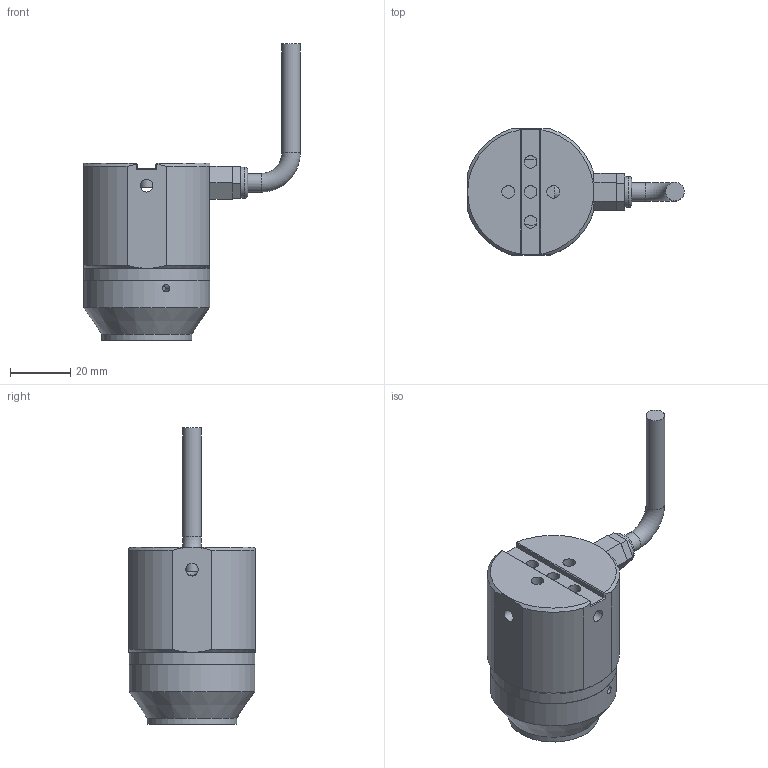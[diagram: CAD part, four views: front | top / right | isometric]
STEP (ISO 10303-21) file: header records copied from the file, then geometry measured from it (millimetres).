
FILE_DESCRIPTION (( 'STEP AP214' ), '1' );
FILE_NAME ('EFFI-LASE-CPT-XXX-ZZZ.STEP', '2021-09-06T16:05:10', ( '' ), ( '' ), 'SwSTEP 2.0', 'SolidWorks 2021', '' );
FILE_SCHEMA (( 'AUTOMOTIVE_DESIGN' ));
Length unit declared in the file: millimetre
Products named in the file (1): EFFI-LASE-CPT-XXX-ZZZ
Bounding box: 72.2 x 42 x 98.69 mm (x, y, z)
Surface area: 16209.2 mm2 (no closed solid volume)
Topology: 0 solids, 12 shells, 118 faces, 346 edges, 240 vertices
Faces by surface type: plane 72, cylinder 27, cone 12, bspline 4, torus 3
Full cylindrical faces by diameter (mm): 2.5 x1, 4.2 x8, 6.2 x2, 10.351 x1, 22 x3, 30 x1, 42 x2
Entity records: 5549 total; most frequent: CARTESIAN_POINT 1304, DIRECTION 592, ORIENTED_EDGE 525, EDGE_CURVE 315, VERTEX_POINT 232, AXIS2_PLACEMENT_3D 217, EDGE_LOOP 162, LINE 158
